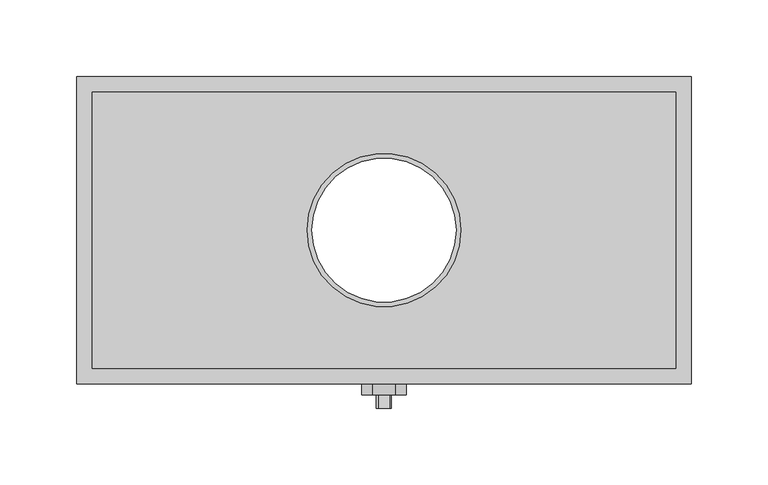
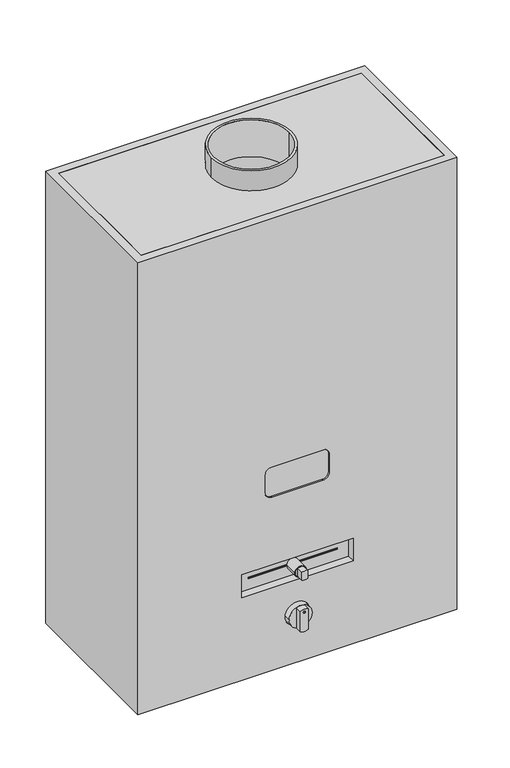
"""IFC4 building model written with IfcOpenShell, lengths in millimetres: furniture geometry, CALEFON : EH-Esquentador a Gáz."""

from ifc_helpers import new_model, si_unit, point, frame, frame_2d, origin, place, context, project, spatial, polyline, circle_curve, trimmed, segment, composite_curve, outline, extrude, source, transform, mapped, element, save
from ifc_brep_helpers import plane_surface, cylinder_surface, revolved_surface, advanced_brep


def furniture_f16aef51(model_context):
    return source(origin(), model_context, "Body", "SolidModel", [
        extrude(outline(composite_curve([segment(polyline([(270.0, 32.0), (270.0, -32.0)]), True, "CONTINUOUS"), segment(trimmed(circle_curve(frame_2d((262.0, -32.0)), 8.0), [point((270.0, -32.0))], [point((262.0, -40.0))], False, "CARTESIAN"), True, "CONTINUOUS"), segment(polyline([(262.0, -40.0), (238.0, -40.0)]), True, "CONTINUOUS"), segment(trimmed(circle_curve(frame_2d((238.0, -32.0)), 8.0), [point((238.0, -40.0))], [point((230.0, -32.0))], False, "CARTESIAN"), True, "CONTINUOUS"), segment(polyline([(230.0, -32.0), (230.0, 32.0)]), True, "CONTINUOUS"), segment(trimmed(circle_curve(frame_2d((238.0, 32.0)), 8.0), [point((230.0, 32.0))], [point((238.0, 40.0))], False, "CARTESIAN"), True, "CONTINUOUS"), segment(polyline([(238.0, 40.0), (262.0, 40.0)]), True, "CONTINUOUS"), segment(trimmed(circle_curve(frame_2d((262.0, 32.0)), 8.0), [point((262.0, 40.0))], [point((270.0, 32.0))], False, "CARTESIAN"), True, "CONTINUOUS")], self_intersect=False)), frame((0.0, 1.9511778, 0.0), z_axis=(0.0, 1.0, 0.0), x_axis=(0.0, 0.0, 1.0)), (0.0, 0.0, 1.0), 2.7739926),
        extrude(outline(composite_curve([segment(trimmed(circle_curve(frame_2d((64.8918231, 0.011652)), 14.5328599), [point((64.8918231, -14.5212079))], [point((64.8918231, 14.5445119))], False, "CARTESIAN"), True, "CONTINUOUS"), segment(trimmed(circle_curve(frame_2d((64.8918231, 0.011652)), 14.5328599), [point((64.8918231, 14.5445119))], [point((64.8918231, -14.5212079))], False, "CARTESIAN"), True, "CONTINUOUS")], self_intersect=False)), frame((0.0, -7.2001239, 0.0), z_axis=(0.0, 1.0, 0.0), x_axis=(0.0, 0.0, 1.0)), (0.0, 0.0, 1.0), 17.2001239),
        extrude(outline(composite_curve([segment(trimmed(circle_curve(frame_2d((124.6303568, 0.011652)), 7.3179038), [point((124.6303568, -7.3062518))], [point((124.6303568, 7.3295558))], False, "CARTESIAN"), True, "CONTINUOUS"), segment(trimmed(circle_curve(frame_2d((124.6303568, 0.011652)), 7.3179038), [point((124.6303568, 7.3295558))], [point((124.6303568, -7.3062518))], False, "CARTESIAN"), True, "CONTINUOUS")], self_intersect=False), holes=[composite_curve([segment(trimmed(circle_curve(frame_2d((124.6303568, 0.011652)), 6.3179038), [point((124.6303568, -6.3062518))], [point((124.6303568, 6.3295558))], True, "CARTESIAN"), True, "CONTINUOUS"), segment(trimmed(circle_curve(frame_2d((124.6303568, 0.011652)), 6.3179038), [point((124.6303568, 6.3295558))], [point((124.6303568, -6.3062518))], True, "CARTESIAN"), True, "CONTINUOUS")], self_intersect=False)]), frame((0.0, -7.2001239, 0.0), z_axis=(0.0, 1.0, 0.0), x_axis=(0.0, 0.0, 1.0)), (0.0, 0.0, 1.0), 17.2001239),
        extrude(outline(polyline([(219.0651089, 24.4248326), (219.0651089, -27.1598107), (189.0651089, -27.1598107), (189.0651089, 24.4248326), (219.0651089, 24.4248326)]), holes=[composite_curve([segment(polyline([(217.9543253, -21.1287373), (217.9543253, 18.8712627)]), True, "CONTINUOUS"), segment(trimmed(circle_curve(frame_2d((213.9548121, 18.933666)), 4.0), [point((217.9543253, 18.8712627))], [point((213.653615, 22.9223099))], True, "CARTESIAN"), True, "CONTINUOUS"), segment(polyline([(213.653615, 22.9223099), (192.7406326, 22.9223099)]), True, "CONTINUOUS"), segment(trimmed(circle_curve(frame_2d((194.2805696, 19.2306173)), 4.0), [point((192.7406326, 22.9223099))], [point((190.3414252, 18.5355339))], True, "CARTESIAN"), True, "CONTINUOUS"), segment(polyline([(190.3414252, 18.5355339), (190.3414252, -21.4644661)]), True, "CONTINUOUS"), segment(trimmed(circle_curve(frame_2d((194.3171324, -21.0242928)), 4.0), [point((190.3414252, -21.4644661))], [point((193.8769591, -25.0))], True, "CARTESIAN"), True, "CONTINUOUS"), segment(polyline([(193.8769591, -25.0), (214.7899415, -25.0)]), True, "CONTINUOUS"), segment(trimmed(circle_curve(frame_2d((213.9808656, -21.109738)), 3.9735051), [point((214.7899415, -25.0))], [point((217.9543253, -21.1287373))], True, "CARTESIAN"), True, "CONTINUOUS")], self_intersect=False)]), frame((0.0, 1.9511778, 0.0), z_axis=(0.0, 1.0, 0.0), x_axis=(0.0, 0.0, 1.0)), (0.0, 0.0, 1.0), 2.7739926),
        advanced_brep(
        [(-5.1803863, -15.9129976, 51.4494596), (4.8196137, -15.9129976, 51.4494596), (4.8196137, -15.9129976, 78.4864431), (-5.1803863, -15.9129976, 78.3315871), (0.9451729, -15.9129976, 75.9688116), (-1.5257575, -15.9129976, 75.9688116), (-5.1803863, -7.2001239, 51.4494596), (-5.1803863, -7.2001239, 78.3315871), (4.8196137, -7.2001239, 78.4864431), (4.8196137, -7.2001239, 51.4494596), (-1.5257575, -14.8457438, 75.9688116), (0.9451729, -14.8457438, 75.9688116)],
        [
            (0, 1, circle_curve(frame((-0.1803863, -15.9129976, 62.3499714), z_axis=(0.0, -1.0, 0.0), x_axis=(1.0, 0.0, 0.0)), 11.9925459)),
            (1, 2),
            (2, 3, circle_curve(frame((0.002634, -15.9129976, 66.5902746), z_axis=(0.0, -1.0, 0.0), x_axis=(1.0, 0.0, 0.0)), 12.8344115)),
            (3, 0),
            (4, 5, circle_curve(frame((-0.2902923, -15.9129976, 75.9688116), z_axis=(0.0, 1.0, 0.0), x_axis=(1.0, 0.0, 0.0)), 1.2354652)),
            (5, 4, circle_curve(frame((-0.2902923, -15.9129976, 75.9688116), z_axis=(0.0, 1.0, 0.0), x_axis=(1.0, 0.0, 0.0)), 1.2354652)),
            (6, 7),
            (7, 8, circle_curve(frame((0.002634, -7.2001239, 66.5902746), z_axis=(0.0, 1.0, 0.0), x_axis=(1.0, 0.0, 0.0)), 12.8344115)),
            (8, 9),
            (9, 6, circle_curve(frame((-0.1803863, -7.2001239, 62.3499714), z_axis=(0.0, 1.0, 0.0), x_axis=(1.0, 0.0, 0.0)), 11.9925459)),
            (0, 6),
            (9, 1),
            (8, 2),
            (7, 3),
            (10, 11, circle_curve(frame((-0.2902923, -14.8457438, 75.9688116), z_axis=(0.0, -1.0, 0.0), x_axis=(1.0, 0.0, 0.0)), 1.2354652)),
            (11, 10, circle_curve(frame((-0.2902923, -14.8457438, 75.9688116), z_axis=(0.0, -1.0, 0.0), x_axis=(1.0, 0.0, 0.0)), 1.2354652)),
            (10, 5),
            (4, 11),
        ],
        [
            plane_surface(frame((11.8121597, -15.9129976, 62.3499714), z_axis=(0.0, -1.0, 0.0), x_axis=(0.0, 0.0, 1.0))),
            plane_surface(frame((11.8121597, -7.2001239, 62.3499714), z_axis=(0.0, 1.0, 0.0), x_axis=(0.0, 0.0, -1.0))),
            cylinder_surface(frame((-0.1803863, -7.2001239, 62.3499714), z_axis=(0.0, -1.0, 0.0), x_axis=(1.0, 0.0, 0.0)), 11.9925459),
            plane_surface(frame((4.8196137, -15.9129976, 51.4494596), z_axis=(1.0, 0.0, 0.0), x_axis=(0.0, 1.0, 0.0))),
            cylinder_surface(frame((0.002634, -7.2001239, 66.5902746), z_axis=(0.0, -1.0, 0.0), x_axis=(1.0, 0.0, 0.0)), 12.8344115),
            plane_surface(frame((-5.1803863, -15.9129976, 78.3315871), z_axis=(-1.0, 0.0, 0.0), x_axis=(0.0, 1.0, 0.0))),
            plane_surface(frame((0.9451729, -14.8457438, 75.9688116), z_axis=(0.0, -1.0, 0.0), x_axis=(0.0, 0.0, -1.0))),
            revolved_surface(polyline([(0.9451729, -15.9129976, 75.9688116), (0.9451729, -14.8457438, 75.9688116)]), (-0.2902923, -14.8457438, 75.9688116), (0.0, -1.0, 0.0)),
        ],
        [
            (0, [[1, 2, 3, 4], [5, 6]]),
            (1, [[7, 8, 9, 10]]),
            (2, [[-1, 11, -10, 12]]),
            (3, [[-2, -12, -9, 13]]),
            (4, [[-3, -13, -8, 14]]),
            (5, [[-4, -14, -7, -11]]),
            (6, [[15, 16]]),
            (7, [[-15, 17, -5, 18]]),
            (7, [[-16, -18, -6, -17]]),
        ],
    ),
        advanced_brep(
        [(-3.5780092, -15.9129976, 119.4733757), (3.7132105, -15.9129976, 119.4733757), (3.7132105, -15.9129976, 129.7873379), (-3.5780092, -15.9129976, 129.7873379), (-3.5780092, -7.2001239, 119.4733757), (-3.5780092, -7.2001239, 129.7873379), (3.7132105, -7.2001239, 129.7873379), (3.7132105, -7.2001239, 119.4733757)],
        [
            (0, 1, circle_curve(frame((0.0676007, -15.9129976, 128.9931314), z_axis=(0.0, -1.0, 0.0), x_axis=(1.0, 0.0, 0.0)), 10.1939306)),
            (1, 2),
            (2, 3, circle_curve(frame((0.0676007, -15.9129976, 122.7420758), z_axis=(0.0, -1.0, 0.0), x_axis=(1.0, 0.0, 0.0)), 7.932603)),
            (3, 0),
            (4, 5),
            (5, 6, circle_curve(frame((0.0676007, -7.2001239, 122.7420758), z_axis=(0.0, 1.0, 0.0), x_axis=(1.0, 0.0, 0.0)), 7.932603)),
            (6, 7),
            (7, 4, circle_curve(frame((0.0676007, -7.2001239, 128.9931314), z_axis=(0.0, 1.0, 0.0), x_axis=(1.0, 0.0, 0.0)), 10.1939306)),
            (0, 4),
            (7, 1),
            (6, 2),
            (5, 3),
        ],
        [
            plane_surface(frame((11.8121597, -15.9129976, 62.3499714), z_axis=(0.0, -1.0, 0.0), x_axis=(0.0, 0.0, 1.0))),
            plane_surface(frame((11.8121597, -7.2001239, 62.3499714), z_axis=(0.0, 1.0, 0.0), x_axis=(0.0, 0.0, -1.0))),
            cylinder_surface(frame((0.0676007, 0.0, 128.9931314), z_axis=(0.0, -1.0, 0.0), x_axis=(1.0, 0.0, 0.0)), 10.1939306),
            plane_surface(frame((3.7132105, -15.9129976, 119.4733757), z_axis=(1.0, 0.0, 0.0), x_axis=(0.0, 1.0, 0.0))),
            cylinder_surface(frame((0.0676007, 0.0, 122.7420758), z_axis=(0.0, -1.0, 0.0), x_axis=(1.0, 0.0, 0.0)), 7.932603),
            plane_surface(frame((-3.5780092, -15.9129976, 129.7873379), z_axis=(-1.0, 0.0, 0.0), x_axis=(0.0, 1.0, 0.0))),
        ],
        [
            (0, [[1, 2, 3, 4]]),
            (1, [[5, 6, 7, 8]]),
            (2, [[-1, 9, -8, 10]]),
            (3, [[-2, -10, -7, 11]]),
            (4, [[-3, -11, -6, 12]]),
            (5, [[-4, -12, -5, -9]]),
        ],
    ),
        extrude(outline(polyline([(141.0, 71.0), (141.0, -71.0), (109.0, -71.0), (109.0, 71.0), (141.0, 71.0)]), holes=[polyline([(126.0, 56.0), (124.0, 56.0), (124.0, -56.0), (126.0, -56.0), (126.0, 56.0)])]), frame((0.0, 10.0, 0.0), z_axis=(0.0, 1.0, 0.0), x_axis=(0.0, 0.0, 1.0)), (0.0, 0.0, 1.0), 1.4732922),
        advanced_brep(
        [(200.0, 200.0, 600.0), (-200.0, 200.0, 600.0), (-200.0, 0.0, 600.0), (200.0, 0.0, 600.0), (190.0, 190.0, 600.0), (190.0, 10.0, 600.0), (-190.0, 10.0, 600.0), (-190.0, 190.0, 600.0), (200.0, 200.0, 0.0), (200.0, 0.0, 0.0), (-200.0, 0.0, 0.0), (-200.0, 200.0, 0.0), (190.0, 190.0, 0.0), (-190.0, 190.0, 0.0), (-190.0, 10.0, 0.0), (190.0, 10.0, 0.0), (-70.0, 0.0, 140.0), (70.0, 0.0, 140.0), (70.0, 0.0, 110.0), (-70.0, 0.0, 110.0), (15.2614663, 0.0, 65.0), (-15.2614663, 0.0, 65.0), (-32.0, 0.0, 270.0), (32.0, 0.0, 270.0), (40.0, 0.0, 262.0), (40.0, 0.0, 238.0), (32.0, 0.0, 230.0), (-32.0, 0.0, 230.0), (-40.0, 0.0, 238.0), (-40.0, 0.0, 262.0), (70.0, 10.0, 140.0), (-70.0, 10.0, 140.0), (-70.0, 10.0, 110.0), (70.0, 10.0, 110.0), (-15.2614663, 10.0, 65.0), (15.2614663, 10.0, 65.0), (32.0, 10.0, 270.0), (-32.0, 10.0, 270.0), (-40.0, 10.0, 262.0), (-40.0, 10.0, 238.0), (-32.0, 10.0, 230.0), (32.0, 10.0, 230.0), (40.0, 10.0, 238.0), (40.0, 10.0, 262.0)],
        [
            (0, 1),
            (1, 2),
            (2, 3),
            (3, 0),
            (4, 5),
            (5, 6),
            (6, 7),
            (7, 4),
            (8, 9),
            (9, 10),
            (10, 11),
            (11, 8),
            (12, 13),
            (13, 14),
            (14, 15),
            (15, 12),
            (0, 8),
            (11, 1),
            (10, 2),
            (9, 3),
            (16, 17),
            (17, 18),
            (18, 19),
            (19, 16),
            (20, 21, circle_curve(frame((0.0, 0.0, 65.0), z_axis=(0.0, 1.0, 0.0), x_axis=(1.0, 0.0, 0.0)), 15.2614663)),
            (21, 20, circle_curve(frame((0.0, 0.0, 65.0), z_axis=(0.0, 1.0, 0.0), x_axis=(1.0, 0.0, 0.0)), 15.2614663)),
            (22, 23),
            (23, 24, circle_curve(frame((32.0, 0.0, 262.0), z_axis=(0.0, 1.0, 0.0), x_axis=(1.0, 0.0, 0.0)), 8.0)),
            (24, 25),
            (25, 26, circle_curve(frame((32.0, 0.0, 238.0), z_axis=(0.0, 1.0, 0.0), x_axis=(1.0, 0.0, 0.0)), 8.0)),
            (26, 27),
            (27, 28, circle_curve(frame((-32.0, 0.0, 238.0), z_axis=(0.0, 1.0, 0.0), x_axis=(1.0, 0.0, 0.0)), 8.0)),
            (28, 29),
            (29, 22, circle_curve(frame((-32.0, 0.0, 262.0), z_axis=(0.0, 1.0, 0.0), x_axis=(1.0, 0.0, 0.0)), 8.0)),
            (4, 12),
            (15, 5),
            (14, 6),
            (30, 31),
            (31, 32),
            (32, 33),
            (33, 30),
            (34, 35, circle_curve(frame((0.0, 10.0, 65.0), z_axis=(0.0, -1.0, 0.0), x_axis=(1.0, 0.0, 0.0)), 15.2614663)),
            (35, 34, circle_curve(frame((0.0, 10.0, 65.0), z_axis=(0.0, -1.0, 0.0), x_axis=(1.0, 0.0, 0.0)), 15.2614663)),
            (36, 37),
            (37, 38, circle_curve(frame((-32.0, 10.0, 262.0), z_axis=(0.0, -1.0, 0.0), x_axis=(1.0, 0.0, 0.0)), 8.0)),
            (38, 39),
            (39, 40, circle_curve(frame((-32.0, 10.0, 238.0), z_axis=(0.0, -1.0, 0.0), x_axis=(1.0, 0.0, 0.0)), 8.0)),
            (40, 41),
            (41, 42, circle_curve(frame((32.0, 10.0, 238.0), z_axis=(0.0, -1.0, 0.0), x_axis=(1.0, 0.0, 0.0)), 8.0)),
            (42, 43),
            (43, 36, circle_curve(frame((32.0, 10.0, 262.0), z_axis=(0.0, -1.0, 0.0), x_axis=(1.0, 0.0, 0.0)), 8.0)),
            (13, 7),
            (16, 31),
            (30, 17),
            (19, 32),
            (18, 33),
            (20, 35),
            (34, 21),
            (22, 37),
            (36, 23),
            (29, 38),
            (28, 39),
            (27, 40),
            (26, 41),
            (25, 42),
            (24, 43),
        ],
        [
            plane_surface(frame((-200.0, 200.0, 600.0), z_axis=(0.0, 0.0, 1.0), x_axis=(-1.0, 0.0, 0.0))),
            plane_surface(frame((-200.0, 200.0, 0.0), z_axis=(0.0, 0.0, -1.0), x_axis=(1.0, 0.0, 0.0))),
            plane_surface(frame((200.0, 200.0, 600.0), z_axis=(0.0, 1.0, 0.0), x_axis=(0.0, 0.0, -1.0))),
            plane_surface(frame((-200.0, 200.0, 600.0), z_axis=(-1.0, 0.0, 0.0), x_axis=(0.0, 0.0, -1.0))),
            plane_surface(frame((-200.0, 0.0, 600.0), z_axis=(0.0, -1.0, 0.0), x_axis=(0.0, 0.0, -1.0))),
            plane_surface(frame((200.0, 0.0, 600.0), z_axis=(1.0, 0.0, 0.0), x_axis=(0.0, 0.0, -1.0))),
            plane_surface(frame((190.0, 190.0, 600.0), z_axis=(-1.0, 0.0, 0.0), x_axis=(0.0, 0.0, -1.0))),
            plane_surface(frame((190.0, 10.0, 600.0), z_axis=(0.0, 1.0, 0.0), x_axis=(0.0, 0.0, -1.0))),
            plane_surface(frame((-190.0, 10.0, 600.0), z_axis=(1.0, 0.0, 0.0), x_axis=(0.0, 0.0, -1.0))),
            plane_surface(frame((-190.0, 190.0, 600.0), z_axis=(0.0, -1.0, 0.0), x_axis=(0.0, 0.0, -1.0))),
            plane_surface(frame((70.0, 0.0, 140.0), z_axis=(0.0, 0.0, -1.0), x_axis=(0.0, 1.0, 0.0))),
            plane_surface(frame((-70.0, 0.0, 140.0), z_axis=(1.0, 0.0, 0.0), x_axis=(0.0, 1.0, 0.0))),
            plane_surface(frame((-70.0, 0.0, 110.0), z_axis=(0.0, 0.0, 1.0), x_axis=(0.0, 1.0, 0.0))),
            plane_surface(frame((70.0, 0.0, 110.0), z_axis=(-1.0, 0.0, 0.0), x_axis=(0.0, 1.0, 0.0))),
            revolved_surface(polyline([(15.2614663, 0.0, 65.0), (15.2614663, 10.0, 65.0)]), (0.0, 0.0, 65.0), (0.0, -1.0, 0.0)),
            plane_surface(frame((32.0, 0.0, 270.0), z_axis=(0.0, 0.0, -1.0), x_axis=(0.0, 1.0, 0.0))),
            revolved_surface(polyline([(-24.0, 0.0, 262.0), (-24.0, 10.0, 262.0)]), (-32.0, 10.0, 262.0), (0.0, -1.0, 0.0)),
            plane_surface(frame((-40.0, 0.0, 262.0), z_axis=(1.0, 0.0, 0.0), x_axis=(0.0, 1.0, 0.0))),
            revolved_surface(polyline([(-24.0, 0.0, 238.0), (-24.0, 10.0, 238.0)]), (-32.0, 10.0, 238.0), (0.0, -1.0, 0.0)),
            plane_surface(frame((-32.0, 0.0, 230.0), z_axis=(0.0, 0.0, 1.0), x_axis=(0.0, 1.0, 0.0))),
            revolved_surface(polyline([(40.0, 0.0, 238.0), (40.0, 10.0, 238.0)]), (32.0, 10.0, 238.0), (0.0, -1.0, 0.0)),
            plane_surface(frame((40.0, 0.0, 238.0), z_axis=(-1.0, 0.0, 0.0), x_axis=(0.0, 1.0, 0.0))),
            revolved_surface(polyline([(40.0, 0.0, 262.0), (40.0, 10.0, 262.0)]), (32.0, 10.0, 262.0), (0.0, -1.0, 0.0)),
        ],
        [
            (0, [[1, 2, 3, 4], [5, 6, 7, 8]]),
            (1, [[9, 10, 11, 12], [13, 14, 15, 16]]),
            (2, [[-1, 17, -12, 18]]),
            (3, [[-2, -18, -11, 19]]),
            (4, [[-3, -19, -10, 20], [21, 22, 23, 24], [25, 26], [27, 28, 29, 30, 31, 32, 33, 34]]),
            (5, [[-4, -20, -9, -17]]),
            (6, [[-5, 35, -16, 36]]),
            (7, [[-6, -36, -15, 37], [38, 39, 40, 41], [42, 43], [44, 45, 46, 47, 48, 49, 50, 51]]),
            (8, [[-7, -37, -14, 52]]),
            (9, [[-8, -52, -13, -35]]),
            (10, [[53, -38, 54, -21]]),
            (11, [[-53, -24, 55, -39]]),
            (12, [[-55, -23, 56, -40]]),
            (13, [[-54, -41, -56, -22]]),
            (14, [[57, -42, 58, -25]]),
            (14, [[-57, -26, -58, -43]]),
            (15, [[59, -44, 60, -27]]),
            (16, [[-59, -34, 61, -45]]),
            (17, [[-61, -33, 62, -46]]),
            (18, [[-62, -32, 63, -47]]),
            (19, [[-63, -31, 64, -48]]),
            (20, [[-64, -30, 65, -49]]),
            (21, [[-65, -29, 66, -50]]),
            (22, [[-60, -51, -66, -28]]),
        ],
    ),
        extrude(outline(composite_curve([segment(trimmed(circle_curve(frame_2d((0.0, 100.0)), 50.0), [point((-50.0, 100.0))], [point((50.0, 100.0))], False, "CARTESIAN"), True, "CONTINUOUS"), segment(trimmed(circle_curve(frame_2d((0.0, 100.0)), 50.0), [point((50.0, 100.0))], [point((-50.0, 100.0))], False, "CARTESIAN"), True, "CONTINUOUS")], self_intersect=False), holes=[composite_curve([segment(trimmed(circle_curve(frame_2d((0.0, 100.0)), 46.8896719), [point((-46.8896719, 100.0))], [point((46.8896719, 100.0))], True, "CARTESIAN"), True, "CONTINUOUS"), segment(trimmed(circle_curve(frame_2d((0.0, 100.0)), 46.8896719), [point((46.8896719, 100.0))], [point((-46.8896719, 100.0))], True, "CARTESIAN"), True, "CONTINUOUS")], self_intersect=False)]), frame((0.0, 0.0, 577.5000933), z_axis=(0.0, 0.0, 1.0), x_axis=(1.0, 0.0, 0.0)), (0.0, 0.0, 1.0), 48.8079126),
        extrude(outline(polyline([(190.0, 190.0), (190.0, 10.0), (-190.0, 10.0), (-190.0, 190.0), (190.0, 190.0)]), holes=[composite_curve([segment(trimmed(circle_curve(frame_2d((0.0, 100.0)), 50.0), [point((-50.0, 100.0))], [point((50.0, 100.0))], True, "CARTESIAN"), True, "CONTINUOUS"), segment(trimmed(circle_curve(frame_2d((0.0, 100.0)), 50.0), [point((50.0, 100.0))], [point((-50.0, 100.0))], True, "CARTESIAN"), True, "CONTINUOUS")], self_intersect=False)]), frame((0.0, 0.0, 590.0), z_axis=(0.0, 0.0, 1.0), x_axis=(1.0, 0.0, 0.0)), (0.0, 0.0, 1.0), 10.0),
        extrude(outline(polyline([(190.0, 190.0), (190.0, 10.0), (-190.0, 10.0), (-190.0, 190.0), (190.0, 190.0)]), holes=[polyline([(150.0, 150.0), (-150.0, 150.0), (-150.0, 50.0), (150.0, 50.0), (150.0, 150.0)])]), frame((0.0, 0.0, 12.5938007), z_axis=(0.0, 0.0, 1.0), x_axis=(1.0, 0.0, 0.0)), (0.0, 0.0, 1.0), 17.4061993),
    ])


if __name__ == "__main__":
    model = new_model("IFC4")
    model_context = context("Model", 3, world=origin())
    ifc_project = project(units=[si_unit("LENGTHUNIT", "METRE", prefix="MILLI")], contexts=[model_context])
    site = spatial("IfcSite", under=ifc_project)
    building = spatial("IfcBuilding", under=site)
    placement = place(None, origin())
    furniture_shape = furniture_f16aef51(model_context)
    element("IfcFurniture", 1, ObjectType="CALEFON : EH-Esquentador a Gáz", at=placement, inside=building, context=model_context, shape_type="MappedRepresentation", body=[
        mapped(furniture_shape, transform((0.0, 0.0, 0.0), x_axis=(1.0, 0.0, 0.0), y_axis=(0.0, 1.0, 0.0), z_axis=(0.0, 0.0, 1.0))),
    ])
    save(model, "model.ifc")
